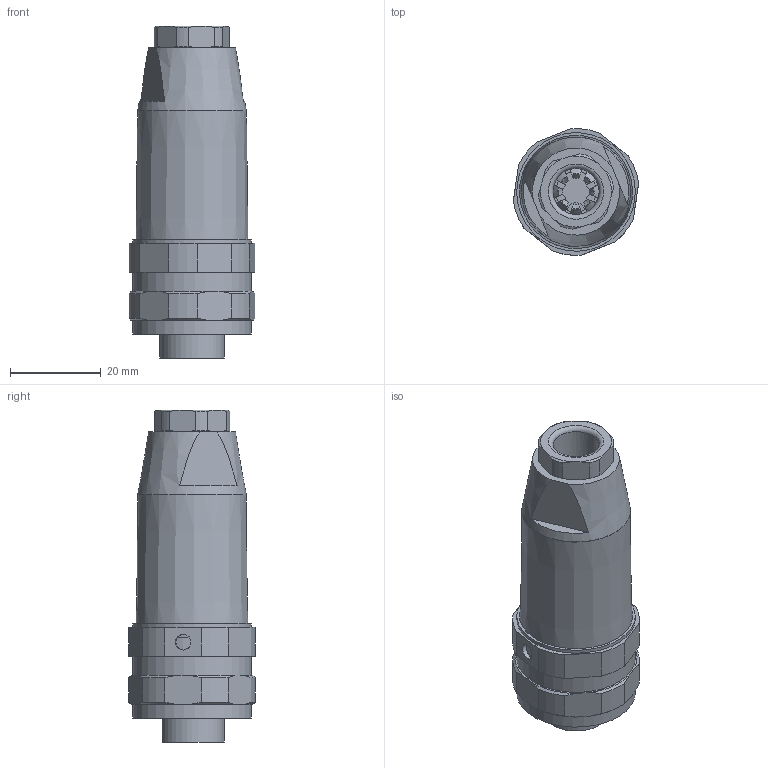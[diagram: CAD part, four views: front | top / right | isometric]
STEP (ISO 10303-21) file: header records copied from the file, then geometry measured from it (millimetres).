
FILE_DESCRIPTION(/* description */ (''),/* implementation_level */ '2;1');
FILE_NAME(/* name */ '7 8 5FS-PG9_stp.stp',/* time_stamp */ '2024-09-14T09:25:50+08:00',/* author */ (''),/* organization */ (''),/* preprocessor_version */ 'ST-DEVELOPER v16.7',/* originating_system */ 'SIEMENS PLM Software NX 12.0',/* authorisation */ '');
FILE_SCHEMA (('AP203_CONFIGURATION_CONTROLLED_3D_DESIGN_OF_MECHANICAL_PARTS_AND_ASSEMBLIES_MIM_LF { 1 0 10303 403 2 1 2}'));
Length unit declared in the file: millimetre
Products named in the file (1): lyj43E03B3Ds2u8
Bounding box: 27.7 x 27.93 x 73.33 mm (x, y, z)
Volume: 21598.7 mm3; surface area: 15025.7 mm2
Topology: 1 solids, 1 shells, 399 faces, 1137 edges, 761 vertices
Faces by surface type: plane 182, cylinder 115, cone 72, torus 22, bspline 7, revolution 1
Full cylindrical faces by diameter (mm): 2.1 x5, 2.7 x5, 3 x5, 3.5 x1, 4 x5, 9 x1, 10.2 x1, 13.2 x1, 13.86 x3, 18 x1, 20.26 x1, 24 x1, 24.4 x1, 25 x1, 26.2 x3
Entity records: 16683 total; most frequent: CARTESIAN_POINT 6784, ORIENTED_EDGE 2080, DIRECTION 1970, EDGE_CURVE 1040, AXIS2_PLACEMENT_3D 790, VERTEX_POINT 718, EDGE_LOOP 481, CIRCLE 401
